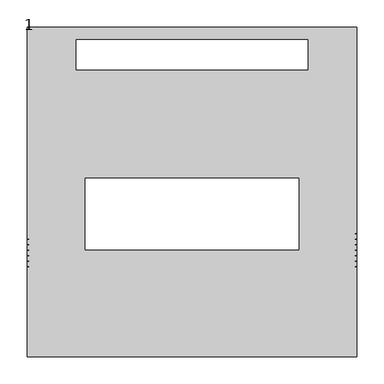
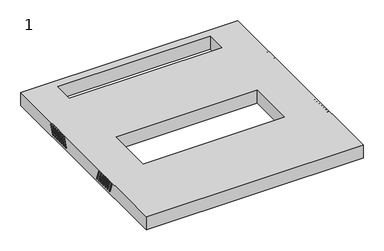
"""IFC4 building model written with IfcOpenShell, lengths in millimetres: proxy geometry, 1."""

from ifc_helpers import new_model, si_unit, frame, origin, place, context, project, spatial, polyline, circle_curve, source, transform, mapped, element, save
from ifc_brep_helpers import plane_surface, revolved_surface, advanced_brep


def proxy_1_d8c2c919(model_context):
    return source(origin(), model_context, "Body", "AdvancedBrep", [
        advanced_brep(
        [(298.0, -135.8, 931.7479679), (298.0, -126.9074763, 907.3159597), (298.0, -123.1487058, 908.6840403), (298.0, -132.0412295, 933.1160484), (298.0, -125.8, 931.7479679), (298.0, -116.9074763, 907.3159597), (298.0, -113.1487058, 908.6840403), (298.0, -122.0412295, 933.1160484), (298.0, -115.8, 931.7479679), (298.0, -106.9074763, 907.3159597), (298.0, -103.1487058, 908.6840403), (298.0, -112.0412295, 933.1160484), (298.0, -105.8, 931.7479679), (298.0, -96.9074763, 907.3159597), (298.0, -93.1487058, 908.6840403), (298.0, -102.0412295, 933.1160484), (298.0, -95.8, 931.7479679), (298.0, -86.9074763, 907.3159597), (298.0, -83.1487058, 908.6840403), (298.0, -92.0412295, 933.1160484), (298.0, -85.8, 931.7479679), (298.0, -76.9074763, 907.3159597), (298.0, -73.1487058, 908.6840403), (298.0, -82.0412295, 933.1160484), (298.0, -75.8, 931.7479679), (298.0, -66.9074763, 907.3159597), (298.0, -63.1487058, 908.6840403), (298.0, -72.0412295, 933.1160484), (300.0, -132.0412295, 933.1160484), (300.0, -135.8, 931.7479679), (300.0, -123.1487058, 908.6840403), (300.0, -126.9074763, 907.3159597), (300.0, -122.0412295, 933.1160484), (300.0, -125.8, 931.7479679), (300.0, -113.1487058, 908.6840403), (300.0, -116.9074763, 907.3159597), (300.0, -112.0412295, 933.1160484), (300.0, -115.8, 931.7479679), (300.0, -103.1487058, 908.6840403), (300.0, -106.9074763, 907.3159597), (300.0, -102.0412295, 933.1160484), (300.0, -105.8, 931.7479679), (300.0, -93.1487058, 908.6840403), (300.0, -96.9074763, 907.3159597), (300.0, -92.0412295, 933.1160484), (300.0, -95.8, 931.7479679), (300.0, -83.1487058, 908.6840403), (300.0, -86.9074763, 907.3159597), (300.0, -82.0412295, 933.1160484), (300.0, -85.8, 931.7479679), (300.0, -73.1487058, 908.6840403), (300.0, -76.9074763, 907.3159597), (300.0, -72.0412295, 933.1160484), (300.0, -75.8, 931.7479679), (300.0, -63.1487058, 908.6840403), (300.0, -66.9074763, 907.3159597), (300.0, 300.0, 900.0), (300.0, -300.0, 900.0), (-300.0, -300.0, 900.0), (-300.0, 300.0, 900.0), (-211.0, 222.5, 900.0), (211.0, 222.5, 900.0), (211.0, 277.5, 900.0), (-211.0, 277.5, 900.0), (195.0, 25.0, 900.0), (-195.0, 25.0, 900.0), (-195.0, -105.0, 900.0), (195.0, -105.0, 900.0), (300.0, 300.0, 938.0), (-300.0, 300.0, 938.0), (-300.0, -300.0, 938.0), (300.0, -300.0, 938.0), (-211.0, 222.5, 938.0), (-211.0, 277.5, 938.0), (211.0, 277.5, 938.0), (211.0, 222.5, 938.0), (195.0, 25.0, 938.0), (195.0, -105.0, 938.0), (-195.0, -105.0, 938.0), (-195.0, 25.0, 938.0), (-300.0, -66.9074763, 907.3159597), (-300.0, -63.1487058, 908.6840403), (-300.0, -72.0412295, 933.1160484), (-300.0, -75.8, 931.7479679), (-300.0, -76.9074763, 907.3159597), (-300.0, -73.1487058, 908.6840403), (-300.0, -82.0412295, 933.1160484), (-300.0, -85.8, 931.7479679), (-300.0, -86.9074763, 907.3159597), (-300.0, -83.1487058, 908.6840403), (-300.0, -92.0412295, 933.1160484), (-300.0, -95.8, 931.7479679), (-300.0, -96.9074763, 907.3159597), (-300.0, -93.1487058, 908.6840403), (-300.0, -102.0412295, 933.1160484), (-300.0, -105.8, 931.7479679), (-300.0, -106.9074763, 907.3159597), (-300.0, -103.1487058, 908.6840403), (-300.0, -112.0412295, 933.1160484), (-300.0, -115.8, 931.7479679), (-300.0, -116.9074763, 907.3159597), (-300.0, -113.1487058, 908.6840403), (-300.0, -122.0412295, 933.1160484), (-300.0, -125.8, 931.7479679), (-300.0, -126.9074763, 907.3159597), (-300.0, -123.1487058, 908.6840403), (-300.0, -132.0412295, 933.1160484), (-300.0, -135.8, 931.7479679), (-300.0, 96.0, 931.7479679), (-300.0, 92.2412295, 933.1160484), (-300.0, 83.3487058, 908.6840403), (-300.0, 87.1074763, 907.3159597), (-300.0, 106.0, 931.7479679), (-300.0, 102.2412295, 933.1160484), (-300.0, 93.3487058, 908.6840403), (-300.0, 97.1074763, 907.3159597), (-300.0, 116.0, 931.7479679), (-300.0, 112.2412295, 933.1160484), (-300.0, 103.3487058, 908.6840403), (-300.0, 107.1074763, 907.3159597), (-300.0, 126.0, 931.7479679), (-300.0, 122.2412295, 933.1160484), (-300.0, 113.3487058, 908.6840403), (-300.0, 117.1074763, 907.3159597), (-300.0, 136.0, 931.7479679), (-300.0, 132.2412295, 933.1160484), (-300.0, 123.3487058, 908.6840403), (-300.0, 127.1074763, 907.3159597), (-300.0, 146.0, 931.7479679), (-300.0, 142.2412295, 933.1160484), (-300.0, 133.3487058, 908.6840403), (-300.0, 137.1074763, 907.3159597), (-300.0, 156.0, 931.7479679), (-300.0, 152.2412295, 933.1160484), (-300.0, 143.3487058, 908.6840403), (-300.0, 147.1074763, 907.3159597), (300.0, 152.2412295, 933.1160484), (300.0, 156.0, 931.7479679), (300.0, 147.1074763, 907.3159597), (300.0, 143.3487058, 908.6840403), (300.0, 142.2412295, 933.1160484), (300.0, 146.0, 931.7479679), (300.0, 137.1074763, 907.3159597), (300.0, 133.3487058, 908.6840403), (300.0, 132.2412295, 933.1160484), (300.0, 136.0, 931.7479679), (300.0, 127.1074763, 907.3159597), (300.0, 123.3487058, 908.6840403), (300.0, 122.2412295, 933.1160484), (300.0, 126.0, 931.7479679), (300.0, 117.1074763, 907.3159597), (300.0, 113.3487058, 908.6840403), (300.0, 112.2412295, 933.1160484), (300.0, 116.0, 931.7479679), (300.0, 107.1074763, 907.3159597), (300.0, 103.3487058, 908.6840403), (300.0, 102.2412295, 933.1160484), (300.0, 106.0, 931.7479679), (300.0, 97.1074763, 907.3159597), (300.0, 93.3487058, 908.6840403), (300.0, 92.2412295, 933.1160484), (300.0, 96.0, 931.7479679), (300.0, 87.1074763, 907.3159597), (300.0, 83.3487058, 908.6840403), (298.0, 156.0, 931.7479679), (298.0, 152.2412295, 933.1160484), (298.0, 143.3487058, 908.6840403), (298.0, 147.1074763, 907.3159597), (298.0, 146.0, 931.7479679), (298.0, 142.2412295, 933.1160484), (298.0, 133.3487058, 908.6840403), (298.0, 137.1074763, 907.3159597), (298.0, 136.0, 931.7479679), (298.0, 132.2412295, 933.1160484), (298.0, 123.3487058, 908.6840403), (298.0, 127.1074763, 907.3159597), (298.0, 126.0, 931.7479679), (298.0, 122.2412295, 933.1160484), (298.0, 113.3487058, 908.6840403), (298.0, 117.1074763, 907.3159597), (298.0, 116.0, 931.7479679), (298.0, 112.2412295, 933.1160484), (298.0, 103.3487058, 908.6840403), (298.0, 107.1074763, 907.3159597), (298.0, 106.0, 931.7479679), (298.0, 102.2412295, 933.1160484), (298.0, 93.3487058, 908.6840403), (298.0, 97.1074763, 907.3159597), (298.0, 96.0, 931.7479679), (298.0, 92.2412295, 933.1160484), (298.0, 83.3487058, 908.6840403), (298.0, 87.1074763, 907.3159597), (-298.0, -63.1487058, 908.6840403), (-298.0, -66.9074763, 907.3159597), (-298.0, -75.8, 931.7479679), (-298.0, -72.0412295, 933.1160484), (-298.0, -73.1487058, 908.6840403), (-298.0, -76.9074763, 907.3159597), (-298.0, -85.8, 931.7479679), (-298.0, -82.0412295, 933.1160484), (-298.0, -83.1487058, 908.6840403), (-298.0, -86.9074763, 907.3159597), (-298.0, -95.8, 931.7479679), (-298.0, -92.0412295, 933.1160484), (-298.0, -93.1487058, 908.6840403), (-298.0, -96.9074763, 907.3159597), (-298.0, -105.8, 931.7479679), (-298.0, -102.0412295, 933.1160484), (-298.0, -103.1487058, 908.6840403), (-298.0, -106.9074763, 907.3159597), (-298.0, -115.8, 931.7479679), (-298.0, -112.0412295, 933.1160484), (-298.0, -113.1487058, 908.6840403), (-298.0, -116.9074763, 907.3159597), (-298.0, -125.8, 931.7479679), (-298.0, -122.0412295, 933.1160484), (-298.0, -123.1487058, 908.6840403), (-298.0, -126.9074763, 907.3159597), (-298.0, -135.8, 931.7479679), (-298.0, -132.0412295, 933.1160484), (-298.0, 92.2412295, 933.1160484), (-298.0, 96.0, 931.7479679), (-298.0, 87.1074763, 907.3159597), (-298.0, 83.3487058, 908.6840403), (-298.0, 102.2412295, 933.1160484), (-298.0, 106.0, 931.7479679), (-298.0, 97.1074763, 907.3159597), (-298.0, 93.3487058, 908.6840403), (-298.0, 112.2412295, 933.1160484), (-298.0, 116.0, 931.7479679), (-298.0, 107.1074763, 907.3159597), (-298.0, 103.3487058, 908.6840403), (-298.0, 122.2412295, 933.1160484), (-298.0, 126.0, 931.7479679), (-298.0, 117.1074763, 907.3159597), (-298.0, 113.3487058, 908.6840403), (-298.0, 132.2412295, 933.1160484), (-298.0, 136.0, 931.7479679), (-298.0, 127.1074763, 907.3159597), (-298.0, 123.3487058, 908.6840403), (-298.0, 142.2412295, 933.1160484), (-298.0, 146.0, 931.7479679), (-298.0, 137.1074763, 907.3159597), (-298.0, 133.3487058, 908.6840403), (-298.0, 152.2412295, 933.1160484), (-298.0, 156.0, 931.7479679), (-298.0, 147.1074763, 907.3159597), (-298.0, 143.3487058, 908.6840403)],
        [
            (0, 1),
            (1, 2, circle_curve(frame((298.0, -125.028091, 908.0), z_axis=(1.0, 0.0, 0.0), x_axis=(0.0, -1.0, 0.0)), 2.0)),
            (2, 3),
            (3, 0, circle_curve(frame((298.0, -133.9206148, 932.4320081), z_axis=(1.0, 0.0, 0.0), x_axis=(0.0, -1.0, 0.0)), 2.0)),
            (4, 5),
            (5, 6, circle_curve(frame((298.0, -115.028091, 908.0), z_axis=(1.0, 0.0, 0.0), x_axis=(0.0, -1.0, 0.0)), 2.0)),
            (6, 7),
            (7, 4, circle_curve(frame((298.0, -123.9206148, 932.4320081), z_axis=(1.0, 0.0, 0.0), x_axis=(0.0, -1.0, 0.0)), 2.0)),
            (8, 9),
            (9, 10, circle_curve(frame((298.0, -105.028091, 908.0), z_axis=(1.0, 0.0, 0.0), x_axis=(0.0, -1.0, 0.0)), 2.0)),
            (10, 11),
            (11, 8, circle_curve(frame((298.0, -113.9206148, 932.4320081), z_axis=(1.0, 0.0, 0.0), x_axis=(0.0, -1.0, 0.0)), 2.0)),
            (12, 13),
            (13, 14, circle_curve(frame((298.0, -95.028091, 908.0), z_axis=(1.0, 0.0, 0.0), x_axis=(0.0, -1.0, 0.0)), 2.0)),
            (14, 15),
            (15, 12, circle_curve(frame((298.0, -103.9206148, 932.4320081), z_axis=(1.0, 0.0, 0.0), x_axis=(0.0, -1.0, 0.0)), 2.0)),
            (16, 17),
            (17, 18, circle_curve(frame((298.0, -85.028091, 908.0), z_axis=(1.0, 0.0, 0.0), x_axis=(0.0, -1.0, 0.0)), 2.0)),
            (18, 19),
            (19, 16, circle_curve(frame((298.0, -93.9206148, 932.4320081), z_axis=(1.0, 0.0, 0.0), x_axis=(0.0, -1.0, 0.0)), 2.0)),
            (20, 21),
            (21, 22, circle_curve(frame((298.0, -75.028091, 908.0), z_axis=(1.0, 0.0, 0.0), x_axis=(0.0, -1.0, 0.0)), 2.0)),
            (22, 23),
            (23, 20, circle_curve(frame((298.0, -83.9206148, 932.4320081), z_axis=(1.0, 0.0, 0.0), x_axis=(0.0, -1.0, 0.0)), 2.0)),
            (24, 25),
            (25, 26, circle_curve(frame((298.0, -65.028091, 908.0), z_axis=(1.0, 0.0, 0.0), x_axis=(0.0, -1.0, 0.0)), 2.0)),
            (26, 27),
            (27, 24, circle_curve(frame((298.0, -73.9206148, 932.4320081), z_axis=(1.0, 0.0, 0.0), x_axis=(0.0, -1.0, 0.0)), 2.0)),
            (3, 28),
            (28, 29, circle_curve(frame((300.0, -133.9206148, 932.4320081), z_axis=(1.0, 0.0, 0.0), x_axis=(0.0, -1.0, 0.0)), 2.0)),
            (29, 0),
            (2, 30),
            (30, 28),
            (1, 31),
            (31, 30, circle_curve(frame((300.0, -125.028091, 908.0), z_axis=(1.0, 0.0, 0.0), x_axis=(0.0, -1.0, 0.0)), 2.0)),
            (29, 31),
            (7, 32),
            (32, 33, circle_curve(frame((300.0, -123.9206148, 932.4320081), z_axis=(1.0, 0.0, 0.0), x_axis=(0.0, -1.0, 0.0)), 2.0)),
            (33, 4),
            (6, 34),
            (34, 32),
            (5, 35),
            (35, 34, circle_curve(frame((300.0, -115.028091, 908.0), z_axis=(1.0, 0.0, 0.0), x_axis=(0.0, -1.0, 0.0)), 2.0)),
            (33, 35),
            (11, 36),
            (36, 37, circle_curve(frame((300.0, -113.9206148, 932.4320081), z_axis=(1.0, 0.0, 0.0), x_axis=(0.0, -1.0, 0.0)), 2.0)),
            (37, 8),
            (10, 38),
            (38, 36),
            (9, 39),
            (39, 38, circle_curve(frame((300.0, -105.028091, 908.0), z_axis=(1.0, 0.0, 0.0), x_axis=(0.0, -1.0, 0.0)), 2.0)),
            (37, 39),
            (15, 40),
            (40, 41, circle_curve(frame((300.0, -103.9206148, 932.4320081), z_axis=(1.0, 0.0, 0.0), x_axis=(0.0, -1.0, 0.0)), 2.0)),
            (41, 12),
            (14, 42),
            (42, 40),
            (13, 43),
            (43, 42, circle_curve(frame((300.0, -95.028091, 908.0), z_axis=(1.0, 0.0, 0.0), x_axis=(0.0, -1.0, 0.0)), 2.0)),
            (41, 43),
            (19, 44),
            (44, 45, circle_curve(frame((300.0, -93.9206148, 932.4320081), z_axis=(1.0, 0.0, 0.0), x_axis=(0.0, -1.0, 0.0)), 2.0)),
            (45, 16),
            (18, 46),
            (46, 44),
            (17, 47),
            (47, 46, circle_curve(frame((300.0, -85.028091, 908.0), z_axis=(1.0, 0.0, 0.0), x_axis=(0.0, -1.0, 0.0)), 2.0)),
            (45, 47),
            (23, 48),
            (48, 49, circle_curve(frame((300.0, -83.9206148, 932.4320081), z_axis=(1.0, 0.0, 0.0), x_axis=(0.0, -1.0, 0.0)), 2.0)),
            (49, 20),
            (22, 50),
            (50, 48),
            (21, 51),
            (51, 50, circle_curve(frame((300.0, -75.028091, 908.0), z_axis=(1.0, 0.0, 0.0), x_axis=(0.0, -1.0, 0.0)), 2.0)),
            (49, 51),
            (27, 52),
            (52, 53, circle_curve(frame((300.0, -73.9206148, 932.4320081), z_axis=(1.0, 0.0, 0.0), x_axis=(0.0, -1.0, 0.0)), 2.0)),
            (53, 24),
            (26, 54),
            (54, 52),
            (25, 55),
            (55, 54, circle_curve(frame((300.0, -65.028091, 908.0), z_axis=(1.0, 0.0, 0.0), x_axis=(0.0, -1.0, 0.0)), 2.0)),
            (53, 55),
            (56, 57),
            (57, 58),
            (58, 59),
            (59, 56),
            (60, 61),
            (61, 62),
            (62, 63),
            (63, 60),
            (64, 65),
            (65, 66),
            (66, 67),
            (67, 64),
            (68, 69),
            (69, 70),
            (70, 71),
            (71, 68),
            (72, 73),
            (73, 74),
            (74, 75),
            (75, 72),
            (76, 77),
            (77, 78),
            (78, 79),
            (79, 76),
            (59, 69),
            (68, 56),
            (58, 70),
            (80, 81, circle_curve(frame((-300.0, -65.028091, 908.0), z_axis=(1.0, 0.0, 0.0), x_axis=(0.0, 1.0, 0.0)), 2.0)),
            (81, 82),
            (82, 83, circle_curve(frame((-300.0, -73.9206148, 932.4320081), z_axis=(1.0, 0.0, 0.0), x_axis=(0.0, 1.0, 0.0)), 2.0)),
            (83, 80),
            (84, 85, circle_curve(frame((-300.0, -75.028091, 908.0), z_axis=(1.0, 0.0, 0.0), x_axis=(0.0, 1.0, 0.0)), 2.0)),
            (85, 86),
            (86, 87, circle_curve(frame((-300.0, -83.9206148, 932.4320081), z_axis=(1.0, 0.0, 0.0), x_axis=(0.0, 1.0, 0.0)), 2.0)),
            (87, 84),
            (88, 89, circle_curve(frame((-300.0, -85.028091, 908.0), z_axis=(1.0, 0.0, 0.0), x_axis=(0.0, 1.0, 0.0)), 2.0)),
            (89, 90),
            (90, 91, circle_curve(frame((-300.0, -93.9206148, 932.4320081), z_axis=(1.0, 0.0, 0.0), x_axis=(0.0, 1.0, 0.0)), 2.0)),
            (91, 88),
            (92, 93, circle_curve(frame((-300.0, -95.028091, 908.0), z_axis=(1.0, 0.0, 0.0), x_axis=(0.0, 1.0, 0.0)), 2.0)),
            (93, 94),
            (94, 95, circle_curve(frame((-300.0, -103.9206148, 932.4320081), z_axis=(1.0, 0.0, 0.0), x_axis=(0.0, 1.0, 0.0)), 2.0)),
            (95, 92),
            (96, 97, circle_curve(frame((-300.0, -105.028091, 908.0), z_axis=(1.0, 0.0, 0.0), x_axis=(0.0, 1.0, 0.0)), 2.0)),
            (97, 98),
            (98, 99, circle_curve(frame((-300.0, -113.9206148, 932.4320081), z_axis=(1.0, 0.0, 0.0), x_axis=(0.0, 1.0, 0.0)), 2.0)),
            (99, 96),
            (100, 101, circle_curve(frame((-300.0, -115.028091, 908.0), z_axis=(1.0, 0.0, 0.0), x_axis=(0.0, 1.0, 0.0)), 2.0)),
            (101, 102),
            (102, 103, circle_curve(frame((-300.0, -123.9206148, 932.4320081), z_axis=(1.0, 0.0, 0.0), x_axis=(0.0, 1.0, 0.0)), 2.0)),
            (103, 100),
            (104, 105, circle_curve(frame((-300.0, -125.028091, 908.0), z_axis=(1.0, 0.0, 0.0), x_axis=(0.0, 1.0, 0.0)), 2.0)),
            (105, 106),
            (106, 107, circle_curve(frame((-300.0, -133.9206148, 932.4320081), z_axis=(1.0, 0.0, 0.0), x_axis=(0.0, 1.0, 0.0)), 2.0)),
            (107, 104),
            (108, 109, circle_curve(frame((-300.0, 94.1206148, 932.4320081), z_axis=(1.0, 0.0, 0.0), x_axis=(0.0, 1.0, 0.0)), 2.0)),
            (109, 110),
            (110, 111, circle_curve(frame((-300.0, 85.228091, 908.0), z_axis=(1.0, 0.0, 0.0), x_axis=(0.0, 1.0, 0.0)), 2.0)),
            (111, 108),
            (112, 113, circle_curve(frame((-300.0, 104.1206148, 932.4320081), z_axis=(1.0, 0.0, 0.0), x_axis=(0.0, 1.0, 0.0)), 2.0)),
            (113, 114),
            (114, 115, circle_curve(frame((-300.0, 95.228091, 908.0), z_axis=(1.0, 0.0, 0.0), x_axis=(0.0, 1.0, 0.0)), 2.0)),
            (115, 112),
            (116, 117, circle_curve(frame((-300.0, 114.1206148, 932.4320081), z_axis=(1.0, 0.0, 0.0), x_axis=(0.0, 1.0, 0.0)), 2.0)),
            (117, 118),
            (118, 119, circle_curve(frame((-300.0, 105.228091, 908.0), z_axis=(1.0, 0.0, 0.0), x_axis=(0.0, 1.0, 0.0)), 2.0)),
            (119, 116),
            (120, 121, circle_curve(frame((-300.0, 124.1206148, 932.4320081), z_axis=(1.0, 0.0, 0.0), x_axis=(0.0, 1.0, 0.0)), 2.0)),
            (121, 122),
            (122, 123, circle_curve(frame((-300.0, 115.228091, 908.0), z_axis=(1.0, 0.0, 0.0), x_axis=(0.0, 1.0, 0.0)), 2.0)),
            (123, 120),
            (124, 125, circle_curve(frame((-300.0, 134.1206148, 932.4320081), z_axis=(1.0, 0.0, 0.0), x_axis=(0.0, 1.0, 0.0)), 2.0)),
            (125, 126),
            (126, 127, circle_curve(frame((-300.0, 125.228091, 908.0), z_axis=(1.0, 0.0, 0.0), x_axis=(0.0, 1.0, 0.0)), 2.0)),
            (127, 124),
            (128, 129, circle_curve(frame((-300.0, 144.1206148, 932.4320081), z_axis=(1.0, 0.0, 0.0), x_axis=(0.0, 1.0, 0.0)), 2.0)),
            (129, 130),
            (130, 131, circle_curve(frame((-300.0, 135.228091, 908.0), z_axis=(1.0, 0.0, 0.0), x_axis=(0.0, 1.0, 0.0)), 2.0)),
            (131, 128),
            (132, 133, circle_curve(frame((-300.0, 154.1206148, 932.4320081), z_axis=(1.0, 0.0, 0.0), x_axis=(0.0, 1.0, 0.0)), 2.0)),
            (133, 134),
            (134, 135, circle_curve(frame((-300.0, 145.228091, 908.0), z_axis=(1.0, 0.0, 0.0), x_axis=(0.0, 1.0, 0.0)), 2.0)),
            (135, 132),
            (57, 71),
            (136, 137, circle_curve(frame((300.0, 154.1206148, 932.4320081), z_axis=(-1.0, 0.0, 0.0), x_axis=(0.0, 1.0, 0.0)), 2.0)),
            (137, 138),
            (138, 139, circle_curve(frame((300.0, 145.228091, 908.0), z_axis=(-1.0, 0.0, 0.0), x_axis=(0.0, 1.0, 0.0)), 2.0)),
            (139, 136),
            (140, 141, circle_curve(frame((300.0, 144.1206148, 932.4320081), z_axis=(-1.0, 0.0, 0.0), x_axis=(0.0, 1.0, 0.0)), 2.0)),
            (141, 142),
            (142, 143, circle_curve(frame((300.0, 135.228091, 908.0), z_axis=(-1.0, 0.0, 0.0), x_axis=(0.0, 1.0, 0.0)), 2.0)),
            (143, 140),
            (144, 145, circle_curve(frame((300.0, 134.1206148, 932.4320081), z_axis=(-1.0, 0.0, 0.0), x_axis=(0.0, 1.0, 0.0)), 2.0)),
            (145, 146),
            (146, 147, circle_curve(frame((300.0, 125.228091, 908.0), z_axis=(-1.0, 0.0, 0.0), x_axis=(0.0, 1.0, 0.0)), 2.0)),
            (147, 144),
            (148, 149, circle_curve(frame((300.0, 124.1206148, 932.4320081), z_axis=(-1.0, 0.0, 0.0), x_axis=(0.0, 1.0, 0.0)), 2.0)),
            (149, 150),
            (150, 151, circle_curve(frame((300.0, 115.228091, 908.0), z_axis=(-1.0, 0.0, 0.0), x_axis=(0.0, 1.0, 0.0)), 2.0)),
            (151, 148),
            (152, 153, circle_curve(frame((300.0, 114.1206148, 932.4320081), z_axis=(-1.0, 0.0, 0.0), x_axis=(0.0, 1.0, 0.0)), 2.0)),
            (153, 154),
            (154, 155, circle_curve(frame((300.0, 105.228091, 908.0), z_axis=(-1.0, 0.0, 0.0), x_axis=(0.0, 1.0, 0.0)), 2.0)),
            (155, 152),
            (156, 157, circle_curve(frame((300.0, 104.1206148, 932.4320081), z_axis=(-1.0, 0.0, 0.0), x_axis=(0.0, 1.0, 0.0)), 2.0)),
            (157, 158),
            (158, 159, circle_curve(frame((300.0, 95.228091, 908.0), z_axis=(-1.0, 0.0, 0.0), x_axis=(0.0, 1.0, 0.0)), 2.0)),
            (159, 156),
            (160, 161, circle_curve(frame((300.0, 94.1206148, 932.4320081), z_axis=(-1.0, 0.0, 0.0), x_axis=(0.0, 1.0, 0.0)), 2.0)),
            (161, 162),
            (162, 163, circle_curve(frame((300.0, 85.228091, 908.0), z_axis=(-1.0, 0.0, 0.0), x_axis=(0.0, 1.0, 0.0)), 2.0)),
            (163, 160),
            (63, 73),
            (72, 60),
            (62, 74),
            (61, 75),
            (67, 77),
            (76, 64),
            (66, 78),
            (65, 79),
            (164, 165, circle_curve(frame((298.0, 154.1206148, 932.4320081), z_axis=(1.0, 0.0, 0.0), x_axis=(0.0, 1.0, 0.0)), 2.0)),
            (165, 166),
            (166, 167, circle_curve(frame((298.0, 145.228091, 908.0), z_axis=(1.0, 0.0, 0.0), x_axis=(0.0, 1.0, 0.0)), 2.0)),
            (167, 164),
            (168, 169, circle_curve(frame((298.0, 144.1206148, 932.4320081), z_axis=(1.0, 0.0, 0.0), x_axis=(0.0, 1.0, 0.0)), 2.0)),
            (169, 170),
            (170, 171, circle_curve(frame((298.0, 135.228091, 908.0), z_axis=(1.0, 0.0, 0.0), x_axis=(0.0, 1.0, 0.0)), 2.0)),
            (171, 168),
            (172, 173, circle_curve(frame((298.0, 134.1206148, 932.4320081), z_axis=(1.0, 0.0, 0.0), x_axis=(0.0, 1.0, 0.0)), 2.0)),
            (173, 174),
            (174, 175, circle_curve(frame((298.0, 125.228091, 908.0), z_axis=(1.0, 0.0, 0.0), x_axis=(0.0, 1.0, 0.0)), 2.0)),
            (175, 172),
            (176, 177, circle_curve(frame((298.0, 124.1206148, 932.4320081), z_axis=(1.0, 0.0, 0.0), x_axis=(0.0, 1.0, 0.0)), 2.0)),
            (177, 178),
            (178, 179, circle_curve(frame((298.0, 115.228091, 908.0), z_axis=(1.0, 0.0, 0.0), x_axis=(0.0, 1.0, 0.0)), 2.0)),
            (179, 176),
            (180, 181, circle_curve(frame((298.0, 114.1206148, 932.4320081), z_axis=(1.0, 0.0, 0.0), x_axis=(0.0, 1.0, 0.0)), 2.0)),
            (181, 182),
            (182, 183, circle_curve(frame((298.0, 105.228091, 908.0), z_axis=(1.0, 0.0, 0.0), x_axis=(0.0, 1.0, 0.0)), 2.0)),
            (183, 180),
            (184, 185, circle_curve(frame((298.0, 104.1206148, 932.4320081), z_axis=(1.0, 0.0, 0.0), x_axis=(0.0, 1.0, 0.0)), 2.0)),
            (185, 186),
            (186, 187, circle_curve(frame((298.0, 95.228091, 908.0), z_axis=(1.0, 0.0, 0.0), x_axis=(0.0, 1.0, 0.0)), 2.0)),
            (187, 184),
            (188, 189, circle_curve(frame((298.0, 94.1206148, 932.4320081), z_axis=(1.0, 0.0, 0.0), x_axis=(0.0, 1.0, 0.0)), 2.0)),
            (189, 190),
            (190, 191, circle_curve(frame((298.0, 85.228091, 908.0), z_axis=(1.0, 0.0, 0.0), x_axis=(0.0, 1.0, 0.0)), 2.0)),
            (191, 188),
            (164, 137),
            (136, 165),
            (139, 166),
            (138, 167),
            (168, 141),
            (140, 169),
            (143, 170),
            (142, 171),
            (172, 145),
            (144, 173),
            (147, 174),
            (146, 175),
            (176, 149),
            (148, 177),
            (151, 178),
            (150, 179),
            (180, 153),
            (152, 181),
            (155, 182),
            (154, 183),
            (184, 157),
            (156, 185),
            (159, 186),
            (158, 187),
            (188, 161),
            (160, 189),
            (163, 190),
            (162, 191),
            (192, 193, circle_curve(frame((-298.0, -65.028091, 908.0), z_axis=(-1.0, 0.0, 0.0), x_axis=(0.0, 1.0, 0.0)), 2.0)),
            (193, 194),
            (194, 195, circle_curve(frame((-298.0, -73.9206148, 932.4320081), z_axis=(-1.0, 0.0, 0.0), x_axis=(0.0, 1.0, 0.0)), 2.0)),
            (195, 192),
            (196, 197, circle_curve(frame((-298.0, -75.028091, 908.0), z_axis=(-1.0, 0.0, 0.0), x_axis=(0.0, 1.0, 0.0)), 2.0)),
            (197, 198),
            (198, 199, circle_curve(frame((-298.0, -83.9206148, 932.4320081), z_axis=(-1.0, 0.0, 0.0), x_axis=(0.0, 1.0, 0.0)), 2.0)),
            (199, 196),
            (200, 201, circle_curve(frame((-298.0, -85.028091, 908.0), z_axis=(-1.0, 0.0, 0.0), x_axis=(0.0, 1.0, 0.0)), 2.0)),
            (201, 202),
            (202, 203, circle_curve(frame((-298.0, -93.9206148, 932.4320081), z_axis=(-1.0, 0.0, 0.0), x_axis=(0.0, 1.0, 0.0)), 2.0)),
            (203, 200),
            (204, 205, circle_curve(frame((-298.0, -95.028091, 908.0), z_axis=(-1.0, 0.0, 0.0), x_axis=(0.0, 1.0, 0.0)), 2.0)),
            (205, 206),
            (206, 207, circle_curve(frame((-298.0, -103.9206148, 932.4320081), z_axis=(-1.0, 0.0, 0.0), x_axis=(0.0, 1.0, 0.0)), 2.0)),
            (207, 204),
            (208, 209, circle_curve(frame((-298.0, -105.028091, 908.0), z_axis=(-1.0, 0.0, 0.0), x_axis=(0.0, 1.0, 0.0)), 2.0)),
            (209, 210),
            (210, 211, circle_curve(frame((-298.0, -113.9206148, 932.4320081), z_axis=(-1.0, 0.0, 0.0), x_axis=(0.0, 1.0, 0.0)), 2.0)),
            (211, 208),
            (212, 213, circle_curve(frame((-298.0, -115.028091, 908.0), z_axis=(-1.0, 0.0, 0.0), x_axis=(0.0, 1.0, 0.0)), 2.0)),
            (213, 214),
            (214, 215, circle_curve(frame((-298.0, -123.9206148, 932.4320081), z_axis=(-1.0, 0.0, 0.0), x_axis=(0.0, 1.0, 0.0)), 2.0)),
            (215, 212),
            (216, 217, circle_curve(frame((-298.0, -125.028091, 908.0), z_axis=(-1.0, 0.0, 0.0), x_axis=(0.0, 1.0, 0.0)), 2.0)),
            (217, 218),
            (218, 219, circle_curve(frame((-298.0, -133.9206148, 932.4320081), z_axis=(-1.0, 0.0, 0.0), x_axis=(0.0, 1.0, 0.0)), 2.0)),
            (219, 216),
            (192, 81),
            (80, 193),
            (83, 194),
            (82, 195),
            (196, 85),
            (84, 197),
            (87, 198),
            (86, 199),
            (200, 89),
            (88, 201),
            (91, 202),
            (90, 203),
            (204, 93),
            (92, 205),
            (95, 206),
            (94, 207),
            (208, 97),
            (96, 209),
            (99, 210),
            (98, 211),
            (212, 101),
            (100, 213),
            (103, 214),
            (102, 215),
            (216, 105),
            (104, 217),
            (107, 218),
            (106, 219),
            (220, 221, circle_curve(frame((-298.0, 94.1206148, 932.4320081), z_axis=(-1.0, 0.0, 0.0), x_axis=(0.0, 1.0, 0.0)), 2.0)),
            (221, 222),
            (222, 223, circle_curve(frame((-298.0, 85.228091, 908.0), z_axis=(-1.0, 0.0, 0.0), x_axis=(0.0, 1.0, 0.0)), 2.0)),
            (223, 220),
            (224, 225, circle_curve(frame((-298.0, 104.1206148, 932.4320081), z_axis=(-1.0, 0.0, 0.0), x_axis=(0.0, 1.0, 0.0)), 2.0)),
            (225, 226),
            (226, 227, circle_curve(frame((-298.0, 95.228091, 908.0), z_axis=(-1.0, 0.0, 0.0), x_axis=(0.0, 1.0, 0.0)), 2.0)),
            (227, 224),
            (228, 229, circle_curve(frame((-298.0, 114.1206148, 932.4320081), z_axis=(-1.0, 0.0, 0.0), x_axis=(0.0, 1.0, 0.0)), 2.0)),
            (229, 230),
            (230, 231, circle_curve(frame((-298.0, 105.228091, 908.0), z_axis=(-1.0, 0.0, 0.0), x_axis=(0.0, 1.0, 0.0)), 2.0)),
            (231, 228),
            (232, 233, circle_curve(frame((-298.0, 124.1206148, 932.4320081), z_axis=(-1.0, 0.0, 0.0), x_axis=(0.0, 1.0, 0.0)), 2.0)),
            (233, 234),
            (234, 235, circle_curve(frame((-298.0, 115.228091, 908.0), z_axis=(-1.0, 0.0, 0.0), x_axis=(0.0, 1.0, 0.0)), 2.0)),
            (235, 232),
            (236, 237, circle_curve(frame((-298.0, 134.1206148, 932.4320081), z_axis=(-1.0, 0.0, 0.0), x_axis=(0.0, 1.0, 0.0)), 2.0)),
            (237, 238),
            (238, 239, circle_curve(frame((-298.0, 125.228091, 908.0), z_axis=(-1.0, 0.0, 0.0), x_axis=(0.0, 1.0, 0.0)), 2.0)),
            (239, 236),
            (240, 241, circle_curve(frame((-298.0, 144.1206148, 932.4320081), z_axis=(-1.0, 0.0, 0.0), x_axis=(0.0, 1.0, 0.0)), 2.0)),
            (241, 242),
            (242, 243, circle_curve(frame((-298.0, 135.228091, 908.0), z_axis=(-1.0, 0.0, 0.0), x_axis=(0.0, 1.0, 0.0)), 2.0)),
            (243, 240),
            (244, 245, circle_curve(frame((-298.0, 154.1206148, 932.4320081), z_axis=(-1.0, 0.0, 0.0), x_axis=(0.0, 1.0, 0.0)), 2.0)),
            (245, 246),
            (246, 247, circle_curve(frame((-298.0, 145.228091, 908.0), z_axis=(-1.0, 0.0, 0.0), x_axis=(0.0, 1.0, 0.0)), 2.0)),
            (247, 244),
            (220, 109),
            (108, 221),
            (111, 222),
            (110, 223),
            (224, 113),
            (112, 225),
            (115, 226),
            (114, 227),
            (228, 117),
            (116, 229),
            (119, 230),
            (118, 231),
            (232, 121),
            (120, 233),
            (123, 234),
            (122, 235),
            (236, 125),
            (124, 237),
            (127, 238),
            (126, 239),
            (240, 129),
            (128, 241),
            (131, 242),
            (130, 243),
            (244, 133),
            (132, 245),
            (135, 246),
            (134, 247),
        ],
        [
            plane_surface(frame((298.0, -126.9074763, 907.3159597), z_axis=(1.0, 0.0, 0.0), x_axis=(0.0, -0.3420201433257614, 0.9396926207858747))),
            revolved_surface(polyline([(300.0, -135.9206148, 932.4320081), (298.0, -135.9206148, 932.4320081)]), (298.0, -133.9206148, 932.4320081), (1.0, 0.0, 0.0)),
            plane_surface(frame((300.0, -123.1487058, 908.6840403), z_axis=(0.0, -0.9396926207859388, -0.342020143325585), x_axis=(-1.0, 0.0, 0.0))),
            revolved_surface(polyline([(300.0, -127.028091, 908.0), (298.0, -127.028091, 908.0)]), (298.0, -125.028091, 908.0), (1.0, 0.0, 0.0)),
            plane_surface(frame((300.0, -135.8, 931.7479679), z_axis=(0.0, 0.9396926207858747, 0.3420201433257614), x_axis=(-1.0, 0.0, 0.0))),
            revolved_surface(polyline([(300.0, -125.9206148, 932.4320081), (298.0, -125.9206148, 932.4320081)]), (300.0, -123.9206148, 932.4320081), (1.0, 0.0, 0.0)),
            plane_surface(frame((300.0, -113.1487058, 908.6840403), z_axis=(0.0, -0.9396926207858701, -0.3420201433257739), x_axis=(-1.0, 0.0, 0.0))),
            revolved_surface(polyline([(300.0, -117.028091, 908.0), (298.0, -117.028091, 908.0)]), (300.0, -115.028091, 908.0), (1.0, 0.0, 0.0)),
            plane_surface(frame((300.0, -125.8, 931.7479679), z_axis=(0.0, 0.9396926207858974, 0.34202014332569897), x_axis=(-1.0, 0.0, 0.0))),
            revolved_surface(polyline([(300.0, -115.9206148, 932.4320081), (298.0, -115.9206148, 932.4320081)]), (300.0, -113.9206148, 932.4320081), (1.0, 0.0, 0.0)),
            plane_surface(frame((300.0, -103.1487058, 908.6840403), z_axis=(0.0, -0.9396926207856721, -0.3420201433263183), x_axis=(-1.0, 0.0, 0.0))),
            revolved_surface(polyline([(300.0, -107.028091, 908.0), (298.0, -107.028091, 908.0)]), (300.0, -105.028091, 908.0), (1.0, 0.0, 0.0)),
            plane_surface(frame((300.0, -115.8, 931.7479679), z_axis=(0.0, 0.9396926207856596, 0.3420201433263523), x_axis=(-1.0, 0.0, 0.0))),
            revolved_surface(polyline([(300.0, -105.9206148, 932.4320081), (298.0, -105.9206148, 932.4320081)]), (300.0, -103.9206148, 932.4320081), (1.0, 0.0, 0.0)),
            plane_surface(frame((300.0, -93.1487058, 908.6840403), z_axis=(0.0, -0.9396926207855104, -0.3420201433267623), x_axis=(-1.0, 0.0, 0.0))),
            revolved_surface(polyline([(300.0, -97.028091, 908.0), (298.0, -97.028091, 908.0)]), (300.0, -95.028091, 908.0), (1.0, 0.0, 0.0)),
            plane_surface(frame((300.0, -105.8, 931.7479679), z_axis=(0.0, 0.9396926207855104, 0.3420201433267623), x_axis=(-1.0, 0.0, 0.0))),
            revolved_surface(polyline([(300.0, -95.9206148, 932.4320081), (298.0, -95.9206148, 932.4320081)]), (300.0, -93.9206148, 932.4320081), (1.0, 0.0, 0.0)),
            plane_surface(frame((300.0, -83.1487058, 908.6840403), z_axis=(0.0, -0.9396926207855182, -0.34202014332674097), x_axis=(-1.0, 0.0, 0.0))),
            revolved_surface(polyline([(300.0, -87.028091, 908.0), (298.0, -87.028091, 908.0)]), (300.0, -85.028091, 908.0), (1.0, 0.0, 0.0)),
            plane_surface(frame((300.0, -95.8, 931.7479679), z_axis=(0.0, 0.9396926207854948, 0.34202014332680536), x_axis=(-1.0, 0.0, 0.0))),
            revolved_surface(polyline([(300.0, -85.9206148, 932.4320081), (298.0, -85.9206148, 932.4320081)]), (300.0, -83.9206148, 932.4320081), (1.0, 0.0, 0.0)),
            plane_surface(frame((300.0, -73.1487058, 908.6840403), z_axis=(0.0, -0.9396926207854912, -0.3420201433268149), x_axis=(-1.0, 0.0, 0.0))),
            revolved_surface(polyline([(300.0, -77.028091, 908.0), (298.0, -77.028091, 908.0)]), (300.0, -75.028091, 908.0), (1.0, 0.0, 0.0)),
            plane_surface(frame((300.0, -85.8, 931.7479679), z_axis=(0.0, 0.939692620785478, 0.34202014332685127), x_axis=(-1.0, 0.0, 0.0))),
            revolved_surface(polyline([(300.0, -75.9206148, 932.4320081), (298.0, -75.9206148, 932.4320081)]), (300.0, -73.9206148, 932.4320081), (1.0, 0.0, 0.0)),
            plane_surface(frame((300.0, -63.1487058, 908.6840403), z_axis=(0.0, -0.939692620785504, -0.34202014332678), x_axis=(-1.0, 0.0, 0.0))),
            revolved_surface(polyline([(300.0, -67.028091, 908.0), (298.0, -67.028091, 908.0)]), (300.0, -65.028091, 908.0), (1.0, 0.0, 0.0)),
            plane_surface(frame((300.0, -75.8, 931.7479679), z_axis=(0.0, 0.9396926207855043, 0.34202014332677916), x_axis=(-1.0, 0.0, 0.0))),
            plane_surface(frame((-300.0, 300.0, 900.0), z_axis=(0.0, 0.0, -1.0), x_axis=(1.0, 0.0, 0.0))),
            plane_surface(frame((-300.0, 300.0, 938.0), z_axis=(0.0, 0.0, 1.0), x_axis=(-1.0, 0.0, 0.0))),
            plane_surface(frame((300.0, 300.0, 938.0), z_axis=(0.0, 1.0, 0.0), x_axis=(0.0, 0.0, -1.0))),
            plane_surface(frame((-300.0, 300.0, 938.0), z_axis=(-1.0, 0.0, 0.0), x_axis=(0.0, 0.0, -1.0))),
            plane_surface(frame((-300.0, -300.0, 938.0), z_axis=(0.0, -1.0, 0.0), x_axis=(0.0, 0.0, -1.0))),
            plane_surface(frame((300.0, -300.0, 938.0), z_axis=(1.0, 0.0, 0.0), x_axis=(0.0, 0.0, -1.0))),
            plane_surface(frame((-211.0, 222.5, 938.0), z_axis=(1.0, 0.0, 0.0), x_axis=(0.0, 0.0, -1.0))),
            plane_surface(frame((-211.0, 277.5, 938.0), z_axis=(0.0, -1.0, 0.0), x_axis=(0.0, 0.0, -1.0))),
            plane_surface(frame((211.0, 277.5, 938.0), z_axis=(-1.0, 0.0, 0.0), x_axis=(0.0, 0.0, -1.0))),
            plane_surface(frame((211.0, 222.5, 938.0), z_axis=(0.0, 1.0, 0.0), x_axis=(0.0, 0.0, -1.0))),
            plane_surface(frame((195.0, 25.0, 938.0), z_axis=(-1.0, 0.0, 0.0), x_axis=(0.0, 0.0, -1.0))),
            plane_surface(frame((195.0, -105.0, 938.0), z_axis=(0.0, 1.0, 0.0), x_axis=(0.0, 0.0, -1.0))),
            plane_surface(frame((-195.0, -105.0, 938.0), z_axis=(1.0, 0.0, 0.0), x_axis=(0.0, 0.0, -1.0))),
            plane_surface(frame((-195.0, 25.0, 938.0), z_axis=(0.0, -1.0, 0.0), x_axis=(0.0, 0.0, -1.0))),
            plane_surface(frame((298.0, 156.1206148, 932.4320081), z_axis=(1.0, 0.0, 0.0), x_axis=(0.0, 0.0, -1.0))),
            revolved_surface(polyline([(300.0, 156.1206148, 932.4320081), (298.0, 156.1206148, 932.4320081)]), (298.0, 154.1206148, 932.4320081), (1.0, 0.0, 0.0)),
            plane_surface(frame((300.0, 152.2412295, 933.1160484), z_axis=(0.0, 0.9396926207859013, -0.3420201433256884), x_axis=(-1.0, 0.0, 0.0))),
            revolved_surface(polyline([(300.0, 147.228091, 908.0), (298.0, 147.228091, 908.0)]), (298.0, 145.228091, 908.0), (1.0, 0.0, 0.0)),
            plane_surface(frame((300.0, 147.1074763, 907.3159597), z_axis=(0.0, -0.9396926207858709, 0.34202014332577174), x_axis=(-1.0, 0.0, 0.0))),
            revolved_surface(polyline([(300.0, 146.1206148, 932.4320081), (298.0, 146.1206148, 932.4320081)]), (300.0, 144.1206148, 932.4320081), (1.0, 0.0, 0.0)),
            plane_surface(frame((300.0, 142.2412295, 933.1160484), z_axis=(0.0, 0.9396926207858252, -0.3420201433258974), x_axis=(-1.0, 0.0, 0.0))),
            revolved_surface(polyline([(300.0, 137.228091, 908.0), (298.0, 137.228091, 908.0)]), (300.0, 135.228091, 908.0), (1.0, 0.0, 0.0)),
            plane_surface(frame((300.0, 137.1074763, 907.3159597), z_axis=(0.0, -0.9396926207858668, 0.34202014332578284), x_axis=(-1.0, 0.0, 0.0))),
            revolved_surface(polyline([(300.0, 136.1206148, 932.4320081), (298.0, 136.1206148, 932.4320081)]), (300.0, 134.1206148, 932.4320081), (1.0, 0.0, 0.0)),
            plane_surface(frame((300.0, 132.2412295, 933.1160484), z_axis=(0.0, 0.9396926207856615, -0.3420201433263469), x_axis=(-1.0, 0.0, 0.0))),
            revolved_surface(polyline([(300.0, 127.228091, 908.0), (298.0, 127.228091, 908.0)]), (300.0, 125.228091, 908.0), (1.0, 0.0, 0.0)),
            plane_surface(frame((300.0, 127.1074763, 907.3159597), z_axis=(0.0, -0.9396926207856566, 0.3420201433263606), x_axis=(-1.0, 0.0, 0.0))),
            revolved_surface(polyline([(300.0, 126.1206148, 932.4320081), (298.0, 126.1206148, 932.4320081)]), (300.0, 124.1206148, 932.4320081), (1.0, 0.0, 0.0)),
            plane_surface(frame((300.0, 122.2412295, 933.1160484), z_axis=(0.0, 0.9396926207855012, -0.3420201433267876), x_axis=(-1.0, 0.0, 0.0))),
            revolved_surface(polyline([(300.0, 117.228091, 908.0), (298.0, 117.228091, 908.0)]), (300.0, 115.228091, 908.0), (1.0, 0.0, 0.0)),
            plane_surface(frame((300.0, 117.1074763, 907.3159597), z_axis=(0.0, -0.939692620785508, 0.34202014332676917), x_axis=(-1.0, 0.0, 0.0))),
            revolved_surface(polyline([(300.0, 116.1206148, 932.4320081), (298.0, 116.1206148, 932.4320081)]), (300.0, 114.1206148, 932.4320081), (1.0, 0.0, 0.0)),
            plane_surface(frame((300.0, 112.2412295, 933.1160484), z_axis=(0.0, 0.9396926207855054, -0.342020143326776), x_axis=(-1.0, 0.0, 0.0))),
            revolved_surface(polyline([(300.0, 107.228091, 908.0), (298.0, 107.228091, 908.0)]), (300.0, 105.228091, 908.0), (1.0, 0.0, 0.0)),
            plane_surface(frame((300.0, 107.1074763, 907.3159597), z_axis=(0.0, -0.9396926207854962, 0.3420201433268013), x_axis=(-1.0, 0.0, 0.0))),
            revolved_surface(polyline([(300.0, 106.1206148, 932.4320081), (298.0, 106.1206148, 932.4320081)]), (300.0, 104.1206148, 932.4320081), (1.0, 0.0, 0.0)),
            plane_surface(frame((300.0, 102.2412295, 933.1160484), z_axis=(0.0, 0.9396926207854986, -0.3420201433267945), x_axis=(-1.0, 0.0, 0.0))),
            revolved_surface(polyline([(300.0, 97.228091, 908.0), (298.0, 97.228091, 908.0)]), (300.0, 95.228091, 908.0), (1.0, 0.0, 0.0)),
            plane_surface(frame((300.0, 97.1074763, 907.3159597), z_axis=(0.0, -0.9396926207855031, 0.34202014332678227), x_axis=(-1.0, 0.0, 0.0))),
            revolved_surface(polyline([(300.0, 96.1206148, 932.4320081), (298.0, 96.1206148, 932.4320081)]), (300.0, 94.1206148, 932.4320081), (1.0, 0.0, 0.0)),
            plane_surface(frame((300.0, 92.2412295, 933.1160484), z_axis=(0.0, 0.9396926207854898, -0.34202014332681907), x_axis=(-1.0, 0.0, 0.0))),
            revolved_surface(polyline([(300.0, 87.228091, 908.0), (298.0, 87.228091, 908.0)]), (300.0, 85.228091, 908.0), (1.0, 0.0, 0.0)),
            plane_surface(frame((300.0, 87.1074763, 907.3159597), z_axis=(0.0, -0.9396926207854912, 0.342020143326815), x_axis=(-1.0, 0.0, 0.0))),
            plane_surface(frame((-298.0, -72.0412295, 933.1160484), z_axis=(-1.0000000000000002, 0.0, 0.0), x_axis=(0.0, -0.3420201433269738, 0.9396926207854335))),
            revolved_surface(polyline([(-298.0, -63.028091, 908.0), (-300.0, -63.028091, 908.0)]), (-300.0, -65.028091, 908.0), (1.0, 0.0, 0.0)),
            plane_surface(frame((-298.0, -75.8, 931.7479679), z_axis=(0.0, 0.939692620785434, 0.3420201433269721), x_axis=(-1.0, 0.0, 0.0))),
            revolved_surface(polyline([(-298.0, -71.9206148, 932.4320081), (-300.0, -71.9206148, 932.4320081)]), (-300.0, -73.9206148, 932.4320081), (1.0, 0.0, 0.0)),
            plane_surface(frame((-298.0, -63.1487058, 908.6840403), z_axis=(0.0, -0.9396926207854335, -0.3420201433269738), x_axis=(-1.0, 0.0, 0.0))),
            revolved_surface(polyline([(-298.0, -73.028091, 908.0), (-300.0, -73.028091, 908.0)]), (-300.0, -75.028091, 908.0), (1.0, 0.0, 0.0)),
            plane_surface(frame((-298.0, -85.8, 931.7479679), z_axis=(0.0, 0.9396926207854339, 0.3420201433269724), x_axis=(-1.0, 0.0, 0.0))),
            revolved_surface(polyline([(-298.0, -81.9206148, 932.4320081), (-300.0, -81.9206148, 932.4320081)]), (-300.0, -83.9206148, 932.4320081), (1.0, 0.0, 0.0)),
            plane_surface(frame((-298.0, -73.1487058, 908.6840403), z_axis=(0.0, -0.9396926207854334, -0.3420201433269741), x_axis=(-1.0, 0.0, 0.0))),
            revolved_surface(polyline([(-298.0, -83.028091, 908.0), (-300.0, -83.028091, 908.0)]), (-300.0, -85.028091, 908.0), (1.0, 0.0, 0.0)),
            plane_surface(frame((-298.0, -95.8, 931.7479679), z_axis=(0.0, 0.9396926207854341, 0.34202014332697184), x_axis=(-1.0, 0.0, 0.0))),
            revolved_surface(polyline([(-298.0, -91.9206148, 932.4320081), (-300.0, -91.9206148, 932.4320081)]), (-300.0, -93.9206148, 932.4320081), (1.0, 0.0, 0.0)),
            plane_surface(frame((-298.0, -83.1487058, 908.6840403), z_axis=(0.0, -0.9396926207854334, -0.34202014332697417), x_axis=(-1.0, 0.0, 0.0))),
            revolved_surface(polyline([(-298.0, -93.028091, 908.0), (-300.0, -93.028091, 908.0)]), (-300.0, -95.028091, 908.0), (1.0, 0.0, 0.0)),
            plane_surface(frame((-298.0, -105.8, 931.7479679), z_axis=(0.0, 0.9396926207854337, 0.34202014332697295), x_axis=(-1.0, 0.0, 0.0))),
            revolved_surface(polyline([(-298.0, -101.9206148, 932.4320081), (-300.0, -101.9206148, 932.4320081)]), (-300.0, -103.9206148, 932.4320081), (1.0, 0.0, 0.0)),
            plane_surface(frame((-298.0, -93.1487058, 908.6840403), z_axis=(0.0, -0.9396926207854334, -0.3420201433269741), x_axis=(-1.0, 0.0, 0.0))),
            revolved_surface(polyline([(-298.0, -103.028091, 908.0), (-300.0, -103.028091, 908.0)]), (-300.0, -105.028091, 908.0), (1.0, 0.0, 0.0)),
            plane_surface(frame((-298.0, -115.8, 931.7479679), z_axis=(0.0, 0.9396926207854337, 0.34202014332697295), x_axis=(-1.0, 0.0, 0.0))),
            revolved_surface(polyline([(-298.0, -111.9206148, 932.4320081), (-300.0, -111.9206148, 932.4320081)]), (-300.0, -113.9206148, 932.4320081), (1.0, 0.0, 0.0)),
            plane_surface(frame((-298.0, -103.1487058, 908.6840403), z_axis=(0.0, -0.9396926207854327, -0.34202014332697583), x_axis=(-1.0, 0.0, 0.0))),
            revolved_surface(polyline([(-298.0, -113.028091, 908.0), (-300.0, -113.028091, 908.0)]), (-300.0, -115.028091, 908.0), (1.0, 0.0, 0.0)),
            plane_surface(frame((-298.0, -125.8, 931.7479679), z_axis=(0.0, 0.9396926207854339, 0.3420201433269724), x_axis=(-1.0, 0.0, 0.0))),
            revolved_surface(polyline([(-298.0, -121.9206148, 932.4320081), (-300.0, -121.9206148, 932.4320081)]), (-300.0, -123.9206148, 932.4320081), (1.0, 0.0, 0.0)),
            plane_surface(frame((-298.0, -113.1487058, 908.6840403), z_axis=(0.0, -0.9396926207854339, -0.34202014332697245), x_axis=(-1.0, 0.0, 0.0))),
            revolved_surface(polyline([(-298.0, -123.028091, 908.0), (-300.0, -123.028091, 908.0)]), (-300.0, -125.028091, 908.0), (1.0, 0.0, 0.0)),
            plane_surface(frame((-298.0, -135.8, 931.7479679), z_axis=(0.0, 0.9396926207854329, 0.3420201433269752), x_axis=(-1.0, 0.0, 0.0))),
            revolved_surface(polyline([(-298.0, -131.9206148, 932.4320081), (-300.0, -131.9206148, 932.4320081)]), (-300.0, -133.9206148, 932.4320081), (1.0, 0.0, 0.0)),
            plane_surface(frame((-298.0, -123.1487058, 908.6840403), z_axis=(0.0, -0.9396926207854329, -0.3420201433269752), x_axis=(-1.0, 0.0, 0.0))),
            plane_surface(frame((-298.0, 83.3487058, 908.6840403), z_axis=(-1.0, 0.0, 0.0), x_axis=(0.0, -0.34202014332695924, -0.9396926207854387))),
            revolved_surface(polyline([(-298.0, 96.1206148, 932.4320081), (-300.0, 96.1206148, 932.4320081)]), (-300.0, 94.1206148, 932.4320081), (1.0, 0.0, 0.0)),
            plane_surface(frame((-298.0, 87.1074763, 907.3159597), z_axis=(0.0, -0.9396926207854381, 0.34202014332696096), x_axis=(-1.0, 0.0, 0.0))),
            revolved_surface(polyline([(-298.0, 87.228091, 908.0), (-300.0, 87.228091, 908.0)]), (-300.0, 85.228091, 908.0), (1.0, 0.0, 0.0)),
            plane_surface(frame((-298.0, 92.2412295, 933.1160484), z_axis=(0.0, 0.9396926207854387, -0.34202014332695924), x_axis=(-1.0, 0.0, 0.0))),
            revolved_surface(polyline([(-298.0, 106.1206148, 932.4320081), (-300.0, 106.1206148, 932.4320081)]), (-300.0, 104.1206148, 932.4320081), (1.0, 0.0, 0.0)),
            plane_surface(frame((-298.0, 97.1074763, 907.3159597), z_axis=(0.0, -0.9396926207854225, 0.3420201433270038), x_axis=(-1.0, 0.0, 0.0))),
            revolved_surface(polyline([(-298.0, 97.228091, 908.0), (-300.0, 97.228091, 908.0)]), (-300.0, 95.228091, 908.0), (1.0, 0.0, 0.0)),
            plane_surface(frame((-298.0, 102.2412295, 933.1160484), z_axis=(0.0, 0.939692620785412, -0.3420201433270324), x_axis=(-1.0, 0.0, 0.0))),
            revolved_surface(polyline([(-298.0, 116.1206148, 932.4320081), (-300.0, 116.1206148, 932.4320081)]), (-300.0, 114.1206148, 932.4320081), (1.0, 0.0, 0.0)),
            plane_surface(frame((-298.0, 107.1074763, 907.3159597), z_axis=(0.0, -0.9396926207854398, 0.3420201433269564), x_axis=(-1.0, 0.0, 0.0))),
            revolved_surface(polyline([(-298.0, 107.228091, 908.0), (-300.0, 107.228091, 908.0)]), (-300.0, 105.228091, 908.0), (1.0, 0.0, 0.0)),
            plane_surface(frame((-298.0, 112.2412295, 933.1160484), z_axis=(0.0, 0.9396926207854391, -0.3420201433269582), x_axis=(-1.0, 0.0, 0.0))),
            revolved_surface(polyline([(-298.0, 126.1206148, 932.4320081), (-300.0, 126.1206148, 932.4320081)]), (-300.0, 124.1206148, 932.4320081), (1.0, 0.0, 0.0)),
            plane_surface(frame((-298.0, 117.1074763, 907.3159597), z_axis=(0.0, -0.939692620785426, 0.34202014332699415), x_axis=(-1.0, 0.0, 0.0))),
            revolved_surface(polyline([(-298.0, 117.228091, 908.0), (-300.0, 117.228091, 908.0)]), (-300.0, 115.228091, 908.0), (1.0, 0.0, 0.0)),
            plane_surface(frame((-298.0, 122.2412295, 933.1160484), z_axis=(0.0, 0.939692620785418, -0.34202014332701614), x_axis=(-1.0, 0.0, 0.0))),
            revolved_surface(polyline([(-298.0, 136.1206148, 932.4320081), (-300.0, 136.1206148, 932.4320081)]), (-300.0, 134.1206148, 932.4320081), (1.0, 0.0, 0.0)),
            plane_surface(frame((-298.0, 127.1074763, 907.3159597), z_axis=(0.0, -0.9396926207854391, 0.3420201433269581), x_axis=(-1.0, 0.0, 0.0))),
            revolved_surface(polyline([(-298.0, 127.228091, 908.0), (-300.0, 127.228091, 908.0)]), (-300.0, 125.228091, 908.0), (1.0, 0.0, 0.0)),
            plane_surface(frame((-298.0, 132.2412295, 933.1160484), z_axis=(0.0, 0.9396926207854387, -0.34202014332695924), x_axis=(-1.0, 0.0, 0.0))),
            revolved_surface(polyline([(-298.0, 146.1206148, 932.4320081), (-300.0, 146.1206148, 932.4320081)]), (-300.0, 144.1206148, 932.4320081), (1.0, 0.0, 0.0)),
            plane_surface(frame((-298.0, 137.1074763, 907.3159597), z_axis=(0.0, -0.9396926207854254, 0.3420201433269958), x_axis=(-1.0, 0.0, 0.0))),
            revolved_surface(polyline([(-298.0, 137.228091, 908.0), (-300.0, 137.228091, 908.0)]), (-300.0, 135.228091, 908.0), (1.0, 0.0, 0.0)),
            plane_surface(frame((-298.0, 142.2412295, 933.1160484), z_axis=(0.0, 0.9396926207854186, -0.3420201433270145), x_axis=(-1.0, 0.0, 0.0))),
            revolved_surface(polyline([(-298.0, 156.1206148, 932.4320081), (-300.0, 156.1206148, 932.4320081)]), (-300.0, 154.1206148, 932.4320081), (1.0, 0.0, 0.0)),
            plane_surface(frame((-298.0, 147.1074763, 907.3159597), z_axis=(0.0, -0.9396926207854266, 0.3420201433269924), x_axis=(-1.0, 0.0, 0.0))),
            revolved_surface(polyline([(-298.0, 147.228091, 908.0), (-300.0, 147.228091, 908.0)]), (-300.0, 145.228091, 908.0), (1.0, 0.0, 0.0)),
            plane_surface(frame((-298.0, 152.2412295, 933.1160484), z_axis=(0.0, 0.9396926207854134, -0.342020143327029), x_axis=(-1.0, 0.0, 0.0))),
        ],
        [
            (0, [[1, 2, 3, 4]]),
            (0, [[5, 6, 7, 8]]),
            (0, [[9, 10, 11, 12]]),
            (0, [[13, 14, 15, 16]]),
            (0, [[17, 18, 19, 20]]),
            (0, [[21, 22, 23, 24]]),
            (0, [[25, 26, 27, 28]]),
            (1, [[-4, 29, 30, 31]]),
            (2, [[-3, 32, 33, -29]]),
            (3, [[-2, 34, 35, -32]]),
            (4, [[-1, -31, 36, -34]]),
            (5, [[-8, 37, 38, 39]]),
            (6, [[-7, 40, 41, -37]]),
            (7, [[-6, 42, 43, -40]]),
            (8, [[-5, -39, 44, -42]]),
            (9, [[-12, 45, 46, 47]]),
            (10, [[-11, 48, 49, -45]]),
            (11, [[-10, 50, 51, -48]]),
            (12, [[-9, -47, 52, -50]]),
            (13, [[-16, 53, 54, 55]]),
            (14, [[-15, 56, 57, -53]]),
            (15, [[-14, 58, 59, -56]]),
            (16, [[-13, -55, 60, -58]]),
            (17, [[-20, 61, 62, 63]]),
            (18, [[-19, 64, 65, -61]]),
            (19, [[-18, 66, 67, -64]]),
            (20, [[-17, -63, 68, -66]]),
            (21, [[-24, 69, 70, 71]]),
            (22, [[-23, 72, 73, -69]]),
            (23, [[-22, 74, 75, -72]]),
            (24, [[-21, -71, 76, -74]]),
            (25, [[-28, 77, 78, 79]]),
            (26, [[-27, 80, 81, -77]]),
            (27, [[-26, 82, 83, -80]]),
            (28, [[-25, -79, 84, -82]]),
            (29, [[85, 86, 87, 88], [89, 90, 91, 92], [93, 94, 95, 96]]),
            (30, [[97, 98, 99, 100], [101, 102, 103, 104], [105, 106, 107, 108]]),
            (31, [[-88, 109, -97, 110]]),
            (32, [[-87, 111, -98, -109], [112, 113, 114, 115], [116, 117, 118, 119], [120, 121, 122, 123], [124, 125, 126, 127], [128, 129, 130, 131], [132, 133, 134, 135], [136, 137, 138, 139], [140, 141, 142, 143], [144, 145, 146, 147], [148, 149, 150, 151], [152, 153, 154, 155], [156, 157, 158, 159], [160, 161, 162, 163], [164, 165, 166, 167]]),
            (33, [[-86, 168, -99, -111]]),
            (34, [[-85, -110, -100, -168], [-30, -33, -35, -36], [-38, -41, -43, -44], [-46, -49, -51, -52], [-54, -57, -59, -60], [-62, -65, -67, -68], [-70, -73, -75, -76], [-78, -81, -83, -84], [169, 170, 171, 172], [173, 174, 175, 176], [177, 178, 179, 180], [181, 182, 183, 184], [185, 186, 187, 188], [189, 190, 191, 192], [193, 194, 195, 196]]),
            (35, [[-92, 197, -101, 198]]),
            (36, [[-91, 199, -102, -197]]),
            (37, [[-90, 200, -103, -199]]),
            (38, [[-89, -198, -104, -200]]),
            (39, [[-96, 201, -105, 202]]),
            (40, [[-95, 203, -106, -201]]),
            (41, [[-94, 204, -107, -203]]),
            (42, [[-93, -202, -108, -204]]),
            (43, [[205, 206, 207, 208]]),
            (43, [[209, 210, 211, 212]]),
            (43, [[213, 214, 215, 216]]),
            (43, [[217, 218, 219, 220]]),
            (43, [[221, 222, 223, 224]]),
            (43, [[225, 226, 227, 228]]),
            (43, [[229, 230, 231, 232]]),
            (44, [[-205, 233, -169, 234]]),
            (45, [[-206, -234, -172, 235]]),
            (46, [[-207, -235, -171, 236]]),
            (47, [[-208, -236, -170, -233]]),
            (48, [[-209, 237, -173, 238]]),
            (49, [[-210, -238, -176, 239]]),
            (50, [[-211, -239, -175, 240]]),
            (51, [[-212, -240, -174, -237]]),
            (52, [[-213, 241, -177, 242]]),
            (53, [[-214, -242, -180, 243]]),
            (54, [[-215, -243, -179, 244]]),
            (55, [[-216, -244, -178, -241]]),
            (56, [[-217, 245, -181, 246]]),
            (57, [[-218, -246, -184, 247]]),
            (58, [[-219, -247, -183, 248]]),
            (59, [[-220, -248, -182, -245]]),
            (60, [[-221, 249, -185, 250]]),
            (61, [[-222, -250, -188, 251]]),
            (62, [[-223, -251, -187, 252]]),
            (63, [[-224, -252, -186, -249]]),
            (64, [[-225, 253, -189, 254]]),
            (65, [[-226, -254, -192, 255]]),
            (66, [[-227, -255, -191, 256]]),
            (67, [[-228, -256, -190, -253]]),
            (68, [[-229, 257, -193, 258]]),
            (69, [[-230, -258, -196, 259]]),
            (70, [[-231, -259, -195, 260]]),
            (71, [[-232, -260, -194, -257]]),
            (72, [[261, 262, 263, 264]]),
            (72, [[265, 266, 267, 268]]),
            (72, [[269, 270, 271, 272]]),
            (72, [[273, 274, 275, 276]]),
            (72, [[277, 278, 279, 280]]),
            (72, [[281, 282, 283, 284]]),
            (72, [[285, 286, 287, 288]]),
            (73, [[-261, 289, -112, 290]]),
            (74, [[-262, -290, -115, 291]]),
            (75, [[-263, -291, -114, 292]]),
            (76, [[-264, -292, -113, -289]]),
            (77, [[-265, 293, -116, 294]]),
            (78, [[-266, -294, -119, 295]]),
            (79, [[-267, -295, -118, 296]]),
            (80, [[-268, -296, -117, -293]]),
            (81, [[-269, 297, -120, 298]]),
            (82, [[-270, -298, -123, 299]]),
            (83, [[-271, -299, -122, 300]]),
            (84, [[-272, -300, -121, -297]]),
            (85, [[-273, 301, -124, 302]]),
            (86, [[-274, -302, -127, 303]]),
            (87, [[-275, -303, -126, 304]]),
            (88, [[-276, -304, -125, -301]]),
            (89, [[-277, 305, -128, 306]]),
            (90, [[-278, -306, -131, 307]]),
            (91, [[-279, -307, -130, 308]]),
            (92, [[-280, -308, -129, -305]]),
            (93, [[-281, 309, -132, 310]]),
            (94, [[-282, -310, -135, 311]]),
            (95, [[-283, -311, -134, 312]]),
            (96, [[-284, -312, -133, -309]]),
            (97, [[-285, 313, -136, 314]]),
            (98, [[-286, -314, -139, 315]]),
            (99, [[-287, -315, -138, 316]]),
            (100, [[-288, -316, -137, -313]]),
            (101, [[317, 318, 319, 320]]),
            (101, [[321, 322, 323, 324]]),
            (101, [[325, 326, 327, 328]]),
            (101, [[329, 330, 331, 332]]),
            (101, [[333, 334, 335, 336]]),
            (101, [[337, 338, 339, 340]]),
            (101, [[341, 342, 343, 344]]),
            (102, [[-317, 345, -140, 346]]),
            (103, [[-318, -346, -143, 347]]),
            (104, [[-319, -347, -142, 348]]),
            (105, [[-320, -348, -141, -345]]),
            (106, [[-321, 349, -144, 350]]),
            (107, [[-322, -350, -147, 351]]),
            (108, [[-323, -351, -146, 352]]),
            (109, [[-324, -352, -145, -349]]),
            (110, [[-325, 353, -148, 354]]),
            (111, [[-326, -354, -151, 355]]),
            (112, [[-327, -355, -150, 356]]),
            (113, [[-328, -356, -149, -353]]),
            (114, [[-329, 357, -152, 358]]),
            (115, [[-330, -358, -155, 359]]),
            (116, [[-331, -359, -154, 360]]),
            (117, [[-332, -360, -153, -357]]),
            (118, [[-333, 361, -156, 362]]),
            (119, [[-334, -362, -159, 363]]),
            (120, [[-335, -363, -158, 364]]),
            (121, [[-336, -364, -157, -361]]),
            (122, [[-337, 365, -160, 366]]),
            (123, [[-338, -366, -163, 367]]),
            (124, [[-339, -367, -162, 368]]),
            (125, [[-340, -368, -161, -365]]),
            (126, [[-341, 369, -164, 370]]),
            (127, [[-342, -370, -167, 371]]),
            (128, [[-343, -371, -166, 372]]),
            (129, [[-344, -372, -165, -369]]),
        ],
    ),
    ])


if __name__ == "__main__":
    model = new_model("IFC4")
    model_context = context("Model", 3, world=origin())
    ifc_project = project(units=[si_unit("LENGTHUNIT", "METRE", prefix="MILLI")], contexts=[model_context])
    site = spatial("IfcSite", under=ifc_project)
    building = spatial("IfcBuilding", under=site)
    placement = place(None, origin())
    proxy_1_shape = proxy_1_d8c2c919(model_context)
    element("IfcBuildingElementProxy", 1, Name="1", ObjectType="1", at=placement, inside=building, context=model_context, shape_type="MappedRepresentation", body=[
        mapped(proxy_1_shape, transform((0.0, 0.0, 0.0), x_axis=(1.0, 0.0, 0.0), y_axis=(0.0, 1.0, 0.0), z_axis=(0.0, 0.0, 1.0))),
    ])
    save(model, "model.ifc")
